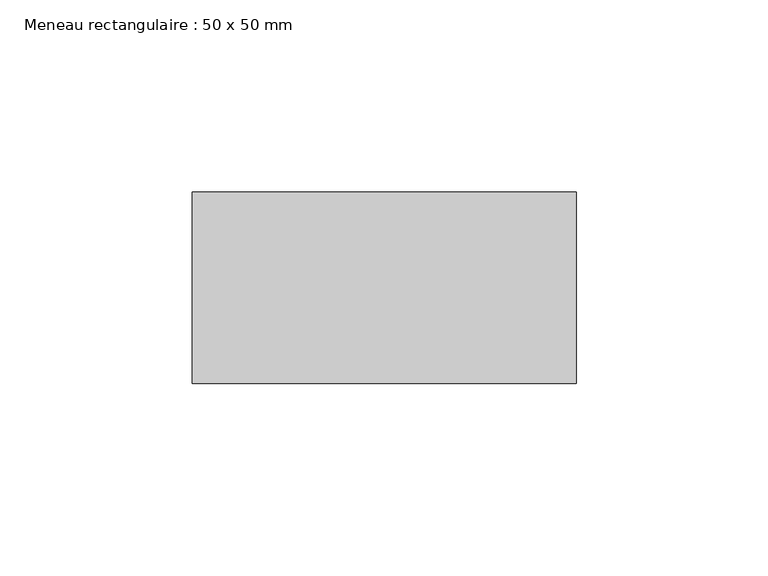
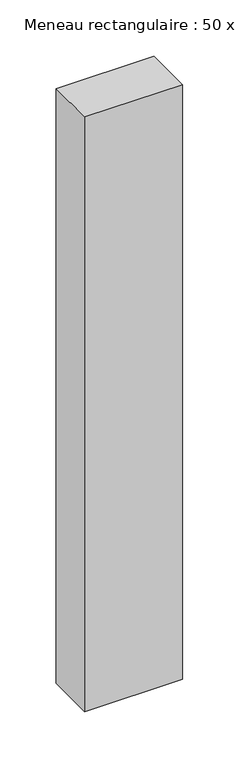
"""IFC4 building model written with IfcOpenShell, lengths in millimetres: member geometry, Meneau rectangulaire : 50 x 50 mm."""

from ifc_helpers import new_model, si_unit, frame, origin, place, context, project, spatial, polyline, outline, extrude, source, transform, mapped, element, save


def meneau_rectangulaire_50_x_50_mm_e5bd8c1b(model_context):
    return source(origin(), model_context, "Body", "SweptSolid", [
        extrude(outline(polyline([(0.0, 0.0), (0.0, -50.0), (-100.0, -50.0), (-100.0, 0.0), (0.0, 0.0)])), frame((0.0, 0.0, -642.5269779), z_axis=(0.0, 0.0, 1.0), x_axis=(1.0, 0.0, 0.0)), (0.0, 0.0, 1.0), 642.5269779),
    ])


if __name__ == "__main__":
    model = new_model("IFC4")
    model_context = context("Model", 3, world=origin())
    ifc_project = project(units=[si_unit("LENGTHUNIT", "METRE", prefix="MILLI")], contexts=[model_context])
    site = spatial("IfcSite", under=ifc_project)
    building = spatial("IfcBuilding", under=site)
    placement = place(None, origin())
    meneau_rectangulaire_50_x_50_mm_shape = meneau_rectangulaire_50_x_50_mm_e5bd8c1b(model_context)
    element("IfcMember", 1, ObjectType="Meneau rectangulaire : 50 x 50 mm", at=placement, inside=building, context=model_context, shape_type="MappedRepresentation", body=[
        mapped(meneau_rectangulaire_50_x_50_mm_shape, transform((0.0, 0.0, 0.0), x_axis=(1.0, 0.0, 0.0), y_axis=(0.0, 1.0, 0.0), z_axis=(0.0, 0.0, 1.0))),
    ])
    save(model, "model.ifc")
